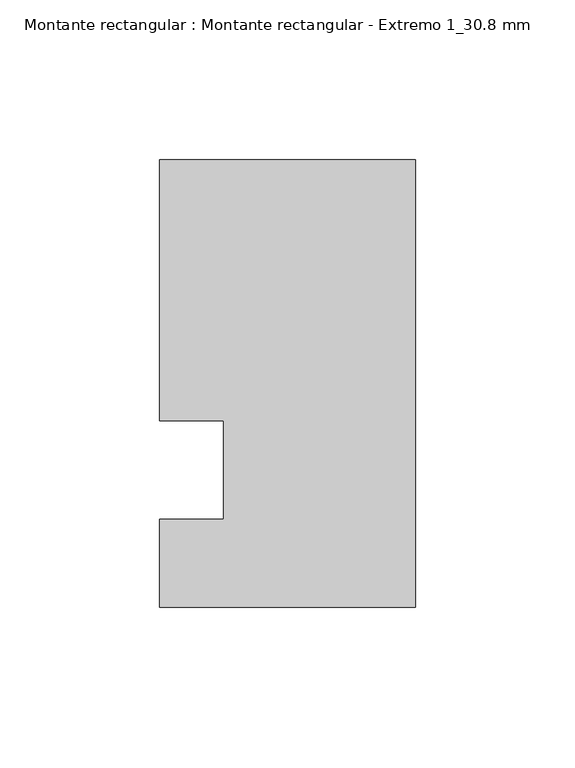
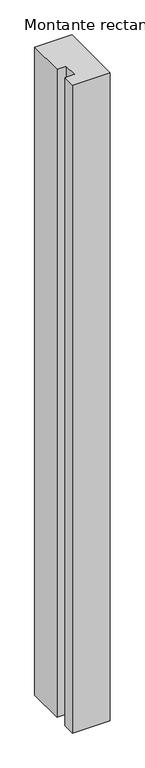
"""IFC4 building model written with IfcOpenShell, lengths in millimetres: member geometry, Montante rectangular : Montante rectangular - Extremo 1_30.8 mm."""

from ifc_helpers import new_model, si_unit, frame, origin, place, context, project, spatial, polyline, outline, extrude, source, transform, mapped, element, save


def montante_rectangular_montante_rectangular_extremo_1_30_8_mm_80b4f17c(model_context):
    return source(origin(), model_context, "Body", "SweptSolid", [
        extrude(outline(polyline([(0.0, 80.0), (0.0, -60.0), (-80.0, -60.0), (-80.0, -32.4), (-60.0, -32.4), (-60.0, -1.6), (-80.0, -1.6), (-80.0, 80.0), (0.0, 80.0)])), frame((0.0, 0.0, -1460.0), z_axis=(0.0, 0.0, 1.0), x_axis=(1.0, 0.0, 0.0)), (0.0, 0.0, 1.0), 1460.0),
    ])


if __name__ == "__main__":
    model = new_model("IFC4")
    model_context = context("Model", 3, world=origin())
    ifc_project = project(units=[si_unit("LENGTHUNIT", "METRE", prefix="MILLI")], contexts=[model_context])
    site = spatial("IfcSite", under=ifc_project)
    building = spatial("IfcBuilding", under=site)
    placement = place(None, origin())
    montante_rectangular_montante_rectangular_extremo_1_30_8_mm_shape = montante_rectangular_montante_rectangular_extremo_1_30_8_mm_80b4f17c(model_context)
    element("IfcMember", 1, ObjectType="Montante rectangular : Montante rectangular - Extremo 1_30.8 mm", at=placement, inside=building, context=model_context, shape_type="MappedRepresentation", body=[
        mapped(montante_rectangular_montante_rectangular_extremo_1_30_8_mm_shape, transform((0.0, 0.0, 0.0), x_axis=(1.0, 0.0, 0.0), y_axis=(0.0, 1.0, 0.0), z_axis=(0.0, 0.0, 1.0))),
    ])
    save(model, "model.ifc")
